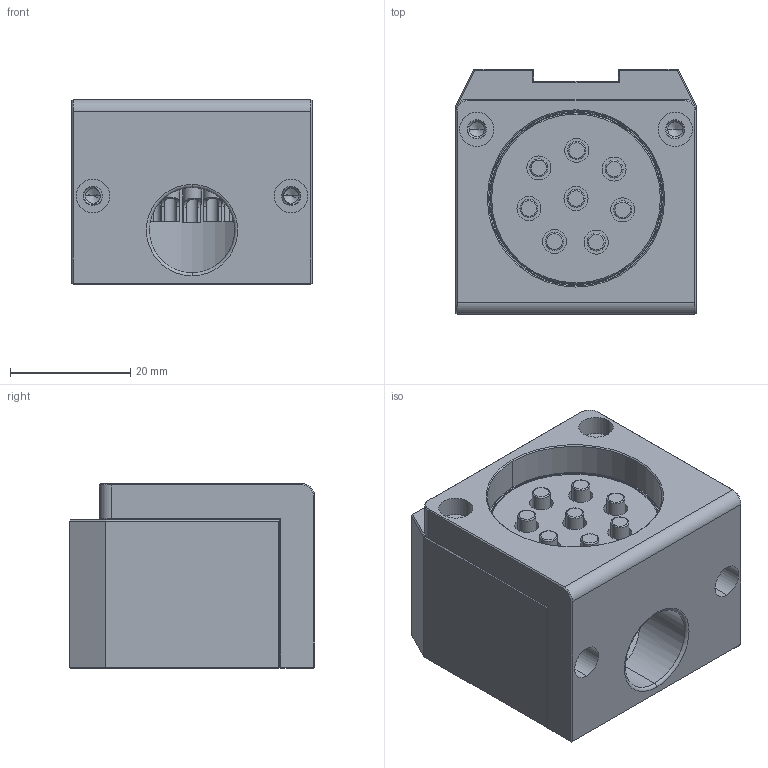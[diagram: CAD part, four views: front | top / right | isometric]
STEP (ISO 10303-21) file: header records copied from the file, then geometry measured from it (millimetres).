
FILE_DESCRIPTION (( 'STEP AP203' ), '1' );
FILE_NAME ('QCSM-08强电模块夹具侧.STEP', '2023-12-27T09:05:15', ( '微软用户' ), ( '微软中国' ), 'SwSTEP 2.0', 'SolidWorks 2018', '' );
FILE_SCHEMA (( 'CONFIG_CONTROL_DESIGN' ));
Length unit declared in the file: millimetre
Products named in the file (1): QCSM-08强电模块夹具侧
Bounding box: 40 x 40.8 x 30.7 mm (x, y, z)
Volume: 36332.5 mm3; surface area: 13405.3 mm2
Topology: 7 solids, 7 shells, 392 faces, 938 edges, 572 vertices
Faces by surface type: plane 159, cylinder 145, cone 66, torus 18, bspline 4
Entity records: 12062 total; most frequent: CARTESIAN_POINT 3178, ORIENTED_EDGE 1826, DIRECTION 1822, EDGE_CURVE 913, AXIS2_PLACEMENT_3D 734, VERTEX_POINT 571, EDGE_LOOP 438, FACE_OUTER_BOUND 392
